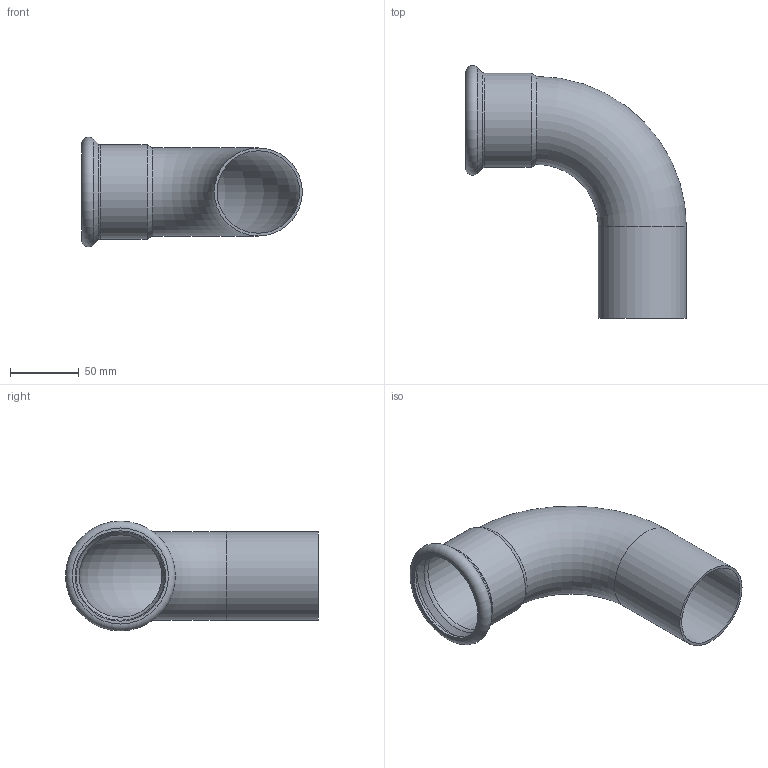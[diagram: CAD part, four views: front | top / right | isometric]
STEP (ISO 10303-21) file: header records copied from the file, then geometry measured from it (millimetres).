
FILE_DESCRIPTION((''),'2;1');
FILE_NAME('G:\Nirosan-Schmiedefeld\Technics\CAD\Bauteile VA\064\69001A64(0).stp','2009-05-08T09:10:40',('herberg'),(''),'Autodesk Inventor 2009','Autodesk Inventor 2009','');
FILE_SCHEMA(('AUTOMOTIVE_DESIGN { 1 0 10303 214 1 1 1 1 }'));
Length unit declared in the file: millimetre
Products named in the file (1): 69001A64(0)
Bounding box: 160.4 x 183.9 x 79.8 mm (x, y, z)
Volume: 97838.7 mm3; surface area: 98649.2 mm2
Topology: 1 solids, 1 shells, 20 faces, 42 edges, 25 vertices
Faces by surface type: cylinder 7, torus 4, cone 4, plane 3, bspline 2
Full cylindrical faces by diameter (mm): 60 x2, 64 x2, 64.4 x1, 65.7 x1, 68.4 x1
Entity records: 514 total; most frequent: CARTESIAN_POINT 149, DIRECTION 78, ORIENTED_EDGE 40, EDGE_LOOP 40, AXIS2_PLACEMENT_3D 39, VERTEX_POINT 20, CIRCLE 20, EDGE_CURVE 20
